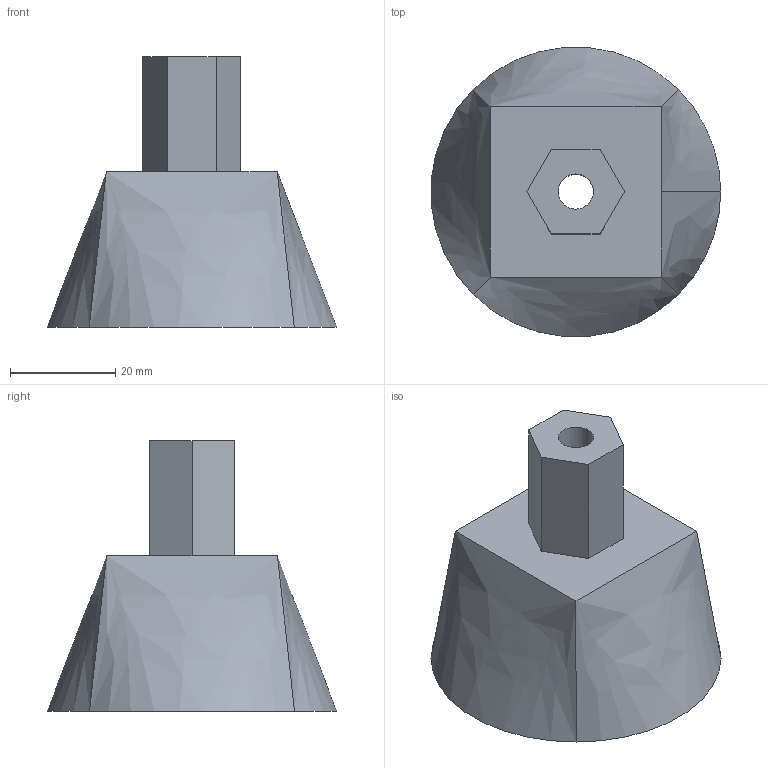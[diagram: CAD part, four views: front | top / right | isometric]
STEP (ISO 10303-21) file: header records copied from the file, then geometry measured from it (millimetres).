
FILE_DESCRIPTION(('Mechanical CAD reference from nasji.com'),'2;1');
FILE_NAME('NASJI.step','',(''),(''),'','NASJI distribution','');
FILE_SCHEMA(('AUTOMOTIVE_DESIGN { 1 0 10303 214 1 1 1 1 }'));
Length unit declared in the file: millimetre
Products named in the file (1): Open CASCADE STEP translator 7.8 156
Bounding box: 55.08 x 54.97 x 51.5 mm (x, y, z)
Volume: 53052.8 mm3; surface area: 10305.7 mm2
Topology: 1 solids, 1 shells, 15 faces, 36 edges, 24 vertices
Faces by surface type: plane 9, bspline 5, cylinder 1
Full cylindrical faces by diameter (mm): 6.7 x1
Entity records: 981 total; most frequent: CARTESIAN_POINT 251, DIRECTION 125, LINE 84, VECTOR 84, ORIENTED_EDGE 72, PCURVE 72, DEFINITIONAL_REPRESENTATION 72, EDGE_CURVE 36
